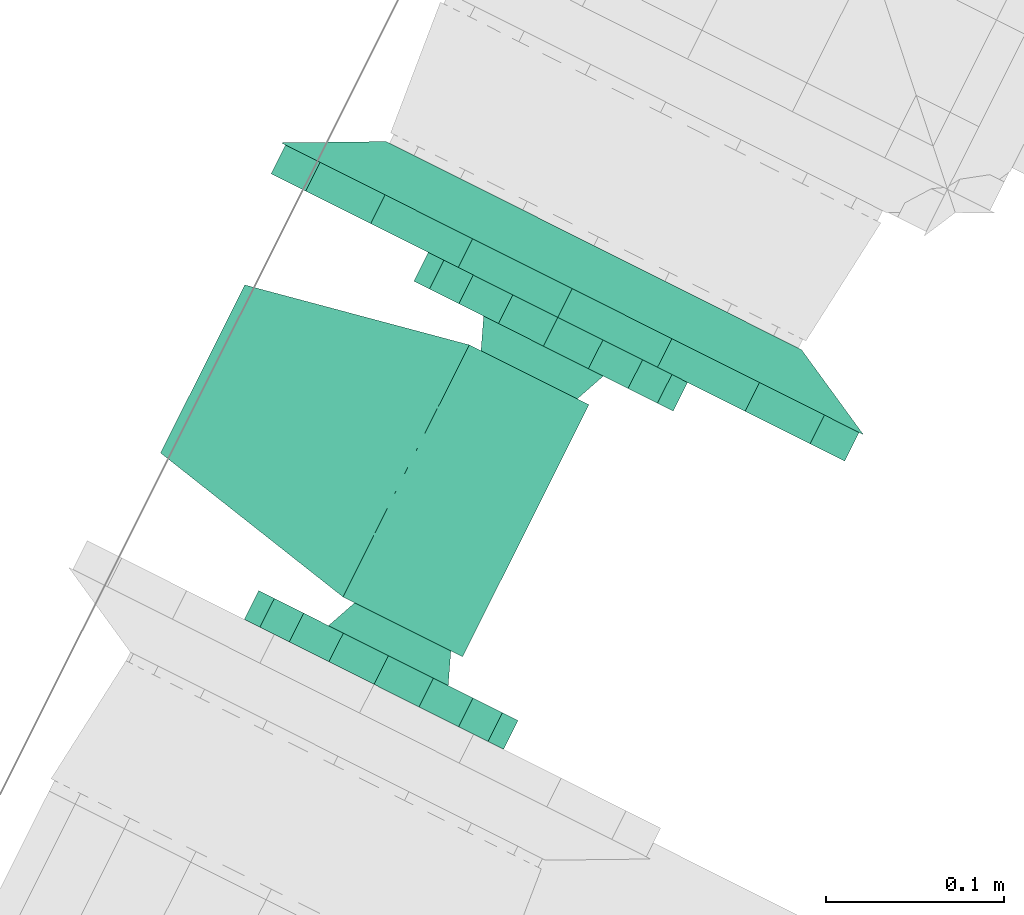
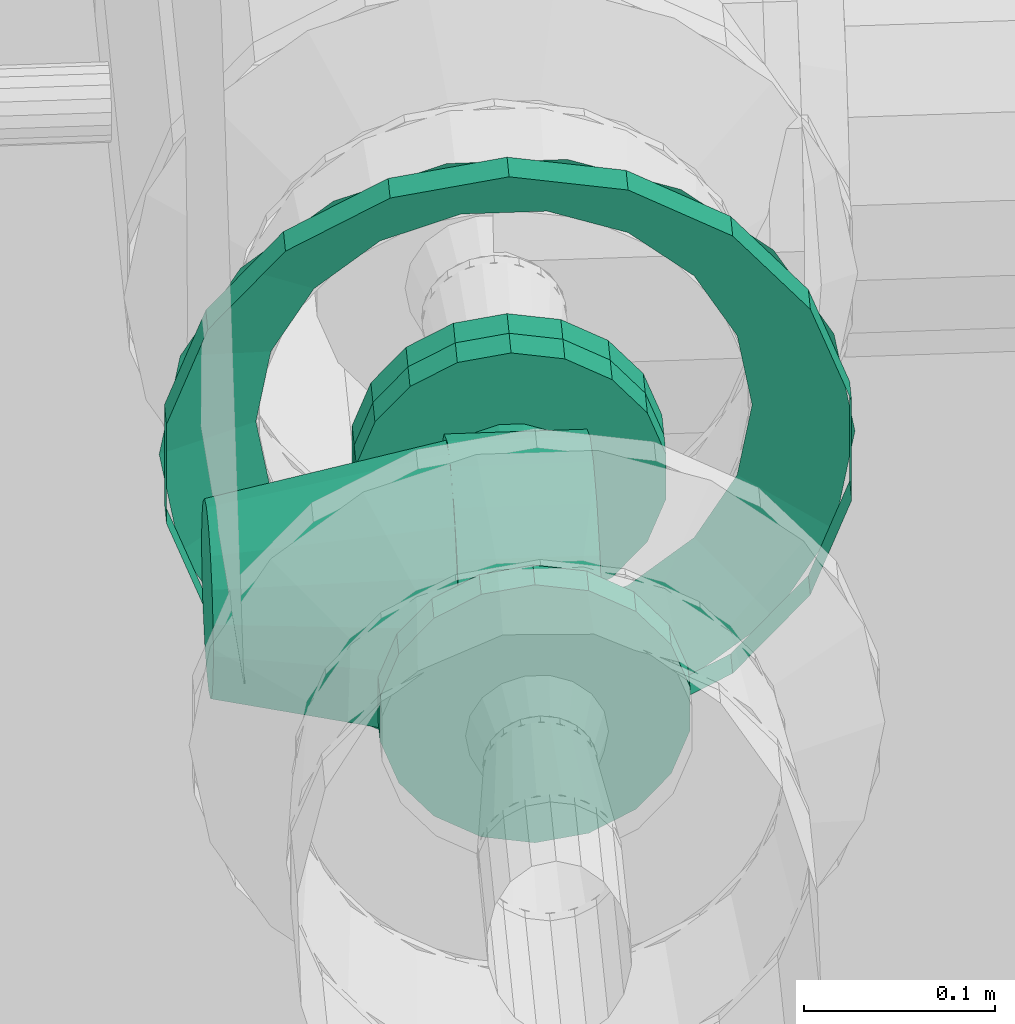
# One storey, part 143 of 206: 1 flow fitting, 1 flow moving device.
"""IFC2X3 building model written with IfcOpenShell, lengths in metres."""

import ifcopenshell
import ifcopenshell.guid

model = None  # the IFC model being written
_history = None  # IfcOwnerHistory: only IFC2X3 demands one
_inside = {}  # id of a spatial element -> (the spatial element, [elements in it])
_under = {}  # id of a project, library or spatial element -> (it, [spatial elements below it])
_declared = {}  # id of a project -> (the project, [libraries it declares])
_typed = {}  # id of a type object -> (the type object, [elements of that type])
_made_of = {}  # id of a material, layer set ... -> (it, [elements and type objects made of it])


def new_model(schema):
    """Start an empty IFC model of exactly this schema.

    Asked for "IFC4X3", IfcOpenShell would pick the latest addendum, in which some entities
    have other attributes; the version numbers below select the first issue.
    IFC2X3 requires an IfcOwnerHistory on every rooted entity: one is made here for all.
    """
    global model, _history
    if schema == "IFC4X3":
        model = ifcopenshell.file(schema_version=(4, 3, 0, 0))
    else:
        model = ifcopenshell.file(schema=schema)
    _inside.clear()
    _under.clear()
    _declared.clear()
    _typed.clear()
    _made_of.clear()
    _history = None
    if model.schema == "IFC2X3":
        org = make("IfcOrganization", Name="unknown")
        user = make(
            "IfcPersonAndOrganization",
            ThePerson=make("IfcPerson", FamilyName="unknown"),
            TheOrganization=org,
        )
        app = make(
            "IfcApplication",
            ApplicationDeveloper=org,
            Version="unknown",
            ApplicationFullName="unknown",
            ApplicationIdentifier="unknown",
        )
        _history = make(
            "IfcOwnerHistory",
            OwningUser=user,
            OwningApplication=app,
            ChangeAction="ADDED",
            CreationDate=0,
        )
    return model


def make(cls, **values):
    """One entity of the class cls with the attributes given. An attribute that is None is left unset."""
    return model.create_entity(
        cls, **{name: value for name, value in values.items() if value is not None}
    )


def rooted(cls, **values):
    """An entity with a GlobalId (a new one), such as an element, a storey or a relation."""
    return make(cls, GlobalId=ifcopenshell.guid.new(), OwnerHistory=_history, **values)


def si_unit(unit_type, name, prefix=None):
    """IfcSIUnit, for example si_unit("LENGTHUNIT", "METRE", prefix="MILLI")."""
    return make("IfcSIUnit", UnitType=unit_type, Prefix=prefix, Name=name)


def derived_unit(unit_type, elements):
    """IfcDerivedUnit: a product of units, each with its exponent."""
    return make(
        "IfcDerivedUnit",
        Elements=[
            make("IfcDerivedUnitElement", Unit=unit, Exponent=power)
            for unit, power in elements
        ],
        UnitType=unit_type,
    )


def assignment(units):
    """IfcUnitAssignment: the units of a project."""
    return None if units is None else make("IfcUnitAssignment", Units=units)


def point(xyz):
    """IfcCartesianPoint."""
    return None if xyz is None else make("IfcCartesianPoint", Coordinates=xyz)


def direction(xyz):
    """IfcDirection."""
    return None if xyz is None else make("IfcDirection", DirectionRatios=xyz)


def frame(location, z_axis=None, x_axis=None):
    """IfcAxis2Placement3D, a coordinate frame: its origin and axes. An axis left out is left unset."""
    return make(
        "IfcAxis2Placement3D",
        Location=point(location),
        Axis=direction(z_axis),
        RefDirection=direction(x_axis),
    )


def origin():
    """The frame at (0, 0, 0) with its axes left unset."""
    return frame((0.0, 0.0, 0.0))


def place(relative_to, where):
    """IfcLocalPlacement: puts the frame where relative to a parent placement (None: the world)."""
    return make(
        "IfcLocalPlacement", PlacementRelTo=relative_to, RelativePlacement=where
    )


def context(
    kind, dimensions, precision=None, world=None, true_north=None, identifier=None
):
    """IfcGeometricRepresentationContext, for example the 3D "Model" context."""
    return make(
        "IfcGeometricRepresentationContext",
        ContextIdentifier=identifier,
        ContextType=kind,
        CoordinateSpaceDimension=dimensions,
        Precision=precision,
        WorldCoordinateSystem=world,
        TrueNorth=true_north,
    )


def subcontext(parent, identifier, kind, view, scale=None):
    """IfcGeometricRepresentationSubContext, for example "Body" below "Model"."""
    return make(
        "IfcGeometricRepresentationSubContext",
        ContextIdentifier=identifier,
        ContextType=kind,
        ParentContext=parent,
        TargetScale=scale,
        TargetView=view,
    )


def project(units=None, contexts=None):
    """IfcProject with its units and contexts."""
    return rooted(
        "IfcProject",
        Name="project",
        RepresentationContexts=contexts,
        UnitsInContext=assignment(units),
    )


def spatial(cls, under=None, at=None, **own):
    """A site, building, storey or space (cls), placed at a placement, below another one or the project."""
    s = rooted(cls, ObjectPlacement=at, **own)
    if under is not None:
        _under.setdefault(under.id(), (under, []))[1].append(s)
    return s


def faces_of(points, faces, orient=None, outer=None):
    """IfcFace entities. A face is a list of loops; a loop is a list of indices into points, from 0.

    orient and outer hold one flag for each loop. By default every Orientation is true, the
    first loop of a face is its IfcFaceOuterBound and the others are IfcFaceBound.
    """
    made = []
    for i, loops in enumerate(faces):
        bounds = []
        for j, loop in enumerate(loops):
            is_outer = j == 0 if outer is None else outer[i][j]
            bounds.append(
                make(
                    "IfcFaceOuterBound" if is_outer else "IfcFaceBound",
                    Bound=make("IfcPolyLoop", Polygon=[points[k] for k in loop]),
                    Orientation=True if orient is None else orient[i][j],
                )
            )
        made.append(make("IfcFace", Bounds=bounds))
    return made


def face_set(faces, orient=None, outer=None):
    """The faces of one IfcConnectedFaceSet. surface_model builds it on its shared points."""
    return ("IfcConnectedFaceSet", faces, orient, outer)


def surface_model(cls, points, shells):
    """IfcFaceBasedSurfaceModel or IfcShellBasedSurfaceModel (cls): surfaces that need not close."""
    shared = [point(p) for p in points]
    made = [make(c, CfsFaces=faces_of(shared, fs, o, b)) for c, fs, o, b in shells]
    if cls == "IfcFaceBasedSurfaceModel":
        return make(cls, FbsmFaces=made)
    return make(cls, SbsmBoundary=made)


def shape(context_of_items, identifier, shape_type, items):
    """IfcShapeRepresentation: the items that make up one representation, for example the "Body"."""
    return make(
        "IfcShapeRepresentation",
        ContextOfItems=context_of_items,
        RepresentationIdentifier=identifier,
        RepresentationType=shape_type,
        Items=items,
    )


def source(mapping_origin, context_of_items, identifier, shape_type, items):
    """IfcRepresentationMap: a shape defined once, which mapped items show again and again."""
    return make(
        "IfcRepresentationMap",
        MappingOrigin=mapping_origin,
        MappedRepresentation=shape(context_of_items, identifier, shape_type, items),
    )


def transform(
    local_origin,
    x_axis=None,
    y_axis=None,
    z_axis=None,
    scale=None,
    scale2=None,
    scale3=None,
    uniform=True,
):
    """IfcCartesianTransformationOperator3D, or its non-uniform kind. x_axis, y_axis, z_axis: its Axis1, 2, 3."""
    if uniform:
        return make(
            "IfcCartesianTransformationOperator3D",
            Axis1=direction(x_axis),
            Axis2=direction(y_axis),
            LocalOrigin=point(local_origin),
            Scale=scale,
            Axis3=direction(z_axis),
        )
    return make(
        "IfcCartesianTransformationOperator3DnonUniform",
        Axis1=direction(x_axis),
        Axis2=direction(y_axis),
        LocalOrigin=point(local_origin),
        Scale=scale,
        Axis3=direction(z_axis),
        Scale2=scale2,
        Scale3=scale3,
    )


def mapped(mapping_source, mapping_target):
    """IfcMappedItem: shows the shape of a source again, moved by a transform."""
    return make(
        "IfcMappedItem", MappingSource=mapping_source, MappingTarget=mapping_target
    )


def material(Name=None, Category=None):
    """IfcMaterial."""
    return make("IfcMaterial", Name=Name, Category=Category)


def made_of(thing, what):
    """Note that an element or type object is made of a material, layer set ...; save() writes the relation."""
    if what is not None:
        _made_of.setdefault(what.id(), (what, []))[1].append(thing)
    return thing


def type_object(cls, material=None, **own):
    """A type object (cls), such as IfcWallType, which elements share."""
    return made_of(rooted(cls, **own), material)


def type_shapes(of_type, sources):
    """Give a type object the sources (RepresentationMaps) that its elements show as mapped items."""
    of_type.RepresentationMaps = sources


def element(
    cls,
    number,
    at=None,
    inside=None,
    cuts=None,
    type_object=None,
    material=None,
    context=None,
    identifier="Body",
    shape_type=None,
    held_by="IfcProductDefinitionShape",
    body=None,
    shapes=None,
    **own,
):
    """One element of the class cls, such as IfcWall. Its Tag is "e" and its number.

    at: its placement. inside: the storey or other place that contains it. cuts: it is an
    opening in that element (IfcRelVoidsElement). A single representation is given by context,
    identifier, shape_type and body (its items); several are given by shapes. held_by: the class
    of the entity that holds the representations. save() writes the other relations.
    """
    e = rooted(cls, Tag="e%d" % number, ObjectPlacement=at, **own)
    if body is not None:
        shapes = [shape(context, identifier, shape_type, body)]
    if shapes is not None:
        e.Representation = make(held_by, Representations=shapes)
    if inside is not None:
        _inside.setdefault(inside.id(), (inside, []))[1].append(e)
    if cuts is not None:
        rooted(
            "IfcRelVoidsElement", RelatingBuildingElement=cuts, RelatedOpeningElement=e
        )
    if type_object is not None:
        _typed.setdefault(type_object.id(), (type_object, []))[1].append(e)
    return made_of(e, material)


def aggregate(whole, parts):
    """IfcRelAggregates: a whole, such as a stair, and the parts it consists of."""
    return rooted("IfcRelAggregates", RelatingObject=whole, RelatedObjects=parts)


def save(model, path):
    """Write the relations noted so far, then the file.

    IfcRelAggregates (storeys below a building ...), IfcRelContainedInSpatialStructure (elements
    in a storey), IfcRelDefinesByType, IfcRelAssociatesMaterial and IfcRelDeclares: one each for
    every whole, place, type object, material and project.
    """
    for whole, parts in _under.values():
        aggregate(whole, parts)
    for where, things in _inside.values():
        rooted(
            "IfcRelContainedInSpatialStructure",
            RelatedElements=things,
            RelatingStructure=where,
        )
    for kind, things in _typed.values():
        rooted("IfcRelDefinesByType", RelatedObjects=things, RelatingType=kind)
    for what, things in _made_of.values():
        rooted("IfcRelAssociatesMaterial", RelatedObjects=things, RelatingMaterial=what)
    for by, libraries in _declared.values():
        rooted("IfcRelDeclares", RelatingContext=by, RelatedDefinitions=libraries)
    model.write(path)


model = new_model("IFC2X3")

# Units and contexts
model_context = context("Model", 3, precision=5.2338327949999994e-05, world=origin(), true_north=direction((0.0, 1.0)))
body_context = subcontext(model_context, "Body", "Model", "MODEL_VIEW")
ifc_project = project(units=[si_unit("LENGTHUNIT", "METRE"), si_unit("AREAUNIT", "SQUARE_METRE"), si_unit("VOLUMEUNIT", "CUBIC_METRE"), si_unit("MASSUNIT", "GRAM", prefix="KILO"), si_unit("PLANEANGLEUNIT", "RADIAN"), derived_unit("THERMALTRANSMITTANCEUNIT", [(si_unit("MASSUNIT", "GRAM", prefix="KILO"), 1), (si_unit("THERMODYNAMICTEMPERATUREUNIT", "KELVIN"), -1), (si_unit("TIMEUNIT", "SECOND"), -3)])], contexts=[model_context])

# Site, building, storey
site_placement = place(None, frame((0.0, 0.0, 0.0), z_axis=(0.0, 0.0, 1.0), x_axis=(0.8939966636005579, -0.4480736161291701, 0.0)))
site = spatial("IfcSite", under=ifc_project, at=site_placement, Name="Default", CompositionType="ELEMENT")
building_placement = place(site_placement, origin())
building = spatial("IfcBuilding", under=site, at=building_placement, CompositionType="ELEMENT")
storey_placement = place(building_placement, origin())
storey = spatial("IfcBuildingStorey", under=building, at=storey_placement, Name="Erdgeschoss", CompositionType="ELEMENT", Elevation=0.0)

# Flow moving device
ifc_material = material(Name="IfcSurfaceStyle #1741")
distribution_element_type_1 = type_object("IfcDistributionElementType", Name="Inline-Pumpe 321583:Inline-Pumpe 321583", material=ifc_material)
shared_shape_1 = source(origin(), body_context, "Body", "SurfaceModel", [
    surface_model("IfcFaceBasedSurfaceModel", [(29.960127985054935, 9.382419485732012, 2.2315), (29.98834464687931, 9.382419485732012, 2.2364753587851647), (29.98834464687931, 9.36441948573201, 2.2364753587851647), (29.960127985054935, 9.36441948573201, 2.2315), (30.013157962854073, 9.382419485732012, 2.250801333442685), (30.013157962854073, 9.36441948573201, 2.250801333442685), (30.031575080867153, 9.382419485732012, 2.2727500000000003), (30.031575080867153, 9.36441948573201, 2.2727500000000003), (30.041374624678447, 9.382419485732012, 2.2996740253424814), (30.041374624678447, 9.36441948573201, 2.2996740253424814), (30.041374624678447, 9.382419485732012, 2.328325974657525), (30.041374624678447, 9.36441948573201, 2.328325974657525), (30.03157508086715, 9.382419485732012, 2.355250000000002), (30.03157508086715, 9.36441948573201, 2.355250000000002), (30.01315796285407, 9.382419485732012, 2.377198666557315), (30.01315796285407, 9.36441948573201, 2.377198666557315), (29.988344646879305, 9.382419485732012, 2.3915246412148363), (29.988344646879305, 9.36441948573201, 2.3915246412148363), (29.960127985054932, 9.382419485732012, 2.3965000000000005), (29.960127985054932, 9.36441948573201, 2.3965000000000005), (29.931911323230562, 9.382419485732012, 2.391524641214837), (29.931911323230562, 9.36441948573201, 2.391524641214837), (29.907098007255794, 9.382419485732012, 2.377198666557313), (29.907098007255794, 9.36441948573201, 2.377198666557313), (29.888680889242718, 9.382419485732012, 2.355249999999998), (29.888680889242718, 9.36441948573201, 2.355249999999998), (29.87888134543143, 9.382419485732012, 2.328325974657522), (29.87888134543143, 9.36441948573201, 2.328325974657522), (29.87888134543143, 9.382419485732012, 2.2996740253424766), (29.87888134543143, 9.36441948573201, 2.2996740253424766), (29.88868088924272, 9.382419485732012, 2.27275), (29.88868088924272, 9.36441948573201, 2.27275), (29.907098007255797, 9.382419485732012, 2.250801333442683), (29.907098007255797, 9.36441948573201, 2.250801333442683), (29.93191132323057, 9.382419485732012, 2.2364753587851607), (29.93191132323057, 9.36441948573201, 2.2364753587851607), (29.960127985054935, 9.38241948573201, 2.314), (29.960127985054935, 9.36441948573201, 2.314), (29.99762798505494, 9.36441948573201, 2.314000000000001), (29.995366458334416, 9.36441948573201, 2.3268257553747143), (29.98845971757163, 9.346419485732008, 2.324311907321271), (29.990277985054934, 9.34641948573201, 2.314000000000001), (29.9888546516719, 9.36441948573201, 2.3381045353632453), (29.98322422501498, 9.346419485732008, 2.3333800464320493), (29.97887798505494, 9.36441948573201, 2.346475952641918), (29.975202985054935, 9.346419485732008, 2.3401106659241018), (29.96663979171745, 9.36441948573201, 2.3509302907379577), (29.965363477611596, 9.346419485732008, 2.3436919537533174), (29.953616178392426, 9.36441948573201, 2.350930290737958), (29.954892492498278, 9.346419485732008, 2.3436919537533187), (29.94137798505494, 9.36441948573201, 2.3464759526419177), (29.945052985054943, 9.346419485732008, 2.340110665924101), (29.931401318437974, 9.36441948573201, 2.338104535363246), (29.9370317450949, 9.346419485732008, 2.3333800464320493), (29.924889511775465, 9.36441948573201, 2.326825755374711), (29.931796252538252, 9.346419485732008, 2.3243119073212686), (29.922627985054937, 9.364419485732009, 2.3139999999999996), (29.929977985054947, 9.346419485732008, 2.3139999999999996), (29.92488951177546, 9.36441948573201, 2.3011742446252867), (29.931796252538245, 9.346419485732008, 2.303688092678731), (29.931401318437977, 9.364419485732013, 2.2898954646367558), (29.937031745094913, 9.346419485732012, 2.294619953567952), (29.94137798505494, 9.36441948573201, 2.2815240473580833), (29.945052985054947, 9.346419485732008, 2.2878893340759), (29.953616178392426, 9.36441948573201, 2.2770697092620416), (29.954892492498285, 9.346419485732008, 2.2843080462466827), (29.966639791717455, 9.36441948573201, 2.2770697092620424), (29.965363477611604, 9.346419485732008, 2.2843080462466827), (29.978877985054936, 9.36441948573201, 2.2815240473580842), (29.975202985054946, 9.346419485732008, 2.2878893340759), (29.988854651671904, 9.36441948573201, 2.289895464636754), (29.983224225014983, 9.346419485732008, 2.2946199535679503), (29.995366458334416, 9.36441948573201, 2.3011742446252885), (29.98845971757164, 9.346419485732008, 2.303688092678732), (29.990277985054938, 9.18841948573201, 2.314000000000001), (29.988459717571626, 9.18841948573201, 2.3243119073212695), (29.995366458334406, 9.170419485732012, 2.326825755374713), (29.99762798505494, 9.170419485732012, 2.314000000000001), (29.983224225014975, 9.18841948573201, 2.3333800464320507), (29.9888546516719, 9.170419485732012, 2.3381045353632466), (29.975202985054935, 9.18841948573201, 2.340110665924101), (29.97887798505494, 9.170419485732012, 2.3464759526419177), (29.965363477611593, 9.18841948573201, 2.343691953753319), (29.966639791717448, 9.170419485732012, 2.350930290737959), (29.954892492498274, 9.18841948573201, 2.3436919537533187), (29.953616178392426, 9.170419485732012, 2.350930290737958), (29.94505298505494, 9.18841948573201, 2.3401106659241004), (29.94137798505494, 9.170419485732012, 2.3464759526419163), (29.9370317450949, 9.188419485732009, 2.333380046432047), (29.931401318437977, 9.17041948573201, 2.3381045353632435), (29.931796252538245, 9.188419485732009, 2.324311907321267), (29.92488951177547, 9.170419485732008, 2.3268257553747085), (29.92997798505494, 9.18841948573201, 2.3139999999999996), (29.922627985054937, 9.170419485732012, 2.313999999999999), (29.931796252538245, 9.18841948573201, 2.303688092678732), (29.92488951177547, 9.170419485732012, 2.3011742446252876), (29.93703174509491, 9.188419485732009, 2.294619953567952), (29.93140131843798, 9.17041948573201, 2.289895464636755), (29.94505298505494, 9.18841948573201, 2.287889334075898), (29.94137798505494, 9.170419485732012, 2.281524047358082), (29.954892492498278, 9.18841948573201, 2.2843080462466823), (29.95361617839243, 9.170419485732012, 2.2770697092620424), (29.965363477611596, 9.18841948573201, 2.2843080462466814), (29.96663979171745, 9.170419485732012, 2.2770697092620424), (29.975202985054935, 9.188419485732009, 2.287889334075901), (29.97887798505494, 9.17041948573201, 2.2815240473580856), (29.983224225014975, 9.18841948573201, 2.2946199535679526), (29.9888546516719, 9.170419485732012, 2.2898954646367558), (29.98845971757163, 9.18841948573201, 2.303688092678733), (29.99536645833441, 9.170419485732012, 2.3011742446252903), (29.960127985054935, 9.170419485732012, 2.2315), (29.98834464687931, 9.170419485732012, 2.2364753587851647), (29.98834464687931, 9.152419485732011, 2.2364753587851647), (29.960127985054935, 9.152419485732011, 2.2315), (30.013157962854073, 9.170419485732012, 2.250801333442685), (30.013157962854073, 9.152419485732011, 2.250801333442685), (30.031575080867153, 9.170419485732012, 2.2727500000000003), (30.031575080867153, 9.152419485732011, 2.2727500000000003), (30.041374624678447, 9.170419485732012, 2.2996740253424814), (30.041374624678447, 9.152419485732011, 2.2996740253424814), (30.041374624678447, 9.170419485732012, 2.328325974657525), (30.041374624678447, 9.152419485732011, 2.328325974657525), (30.03157508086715, 9.170419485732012, 2.355250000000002), (30.03157508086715, 9.152419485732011, 2.355250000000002), (30.01315796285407, 9.170419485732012, 2.377198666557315), (30.01315796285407, 9.152419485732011, 2.377198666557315), (29.988344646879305, 9.170419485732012, 2.3915246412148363), (29.988344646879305, 9.152419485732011, 2.3915246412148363), (29.960127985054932, 9.170419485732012, 2.3965000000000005), (29.960127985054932, 9.152419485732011, 2.3965000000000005), (29.931911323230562, 9.170419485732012, 2.391524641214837), (29.931911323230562, 9.152419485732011, 2.391524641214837), (29.907098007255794, 9.170419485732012, 2.377198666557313), (29.907098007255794, 9.152419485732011, 2.377198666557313), (29.888680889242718, 9.170419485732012, 2.355249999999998), (29.888680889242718, 9.152419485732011, 2.355249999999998), (29.87888134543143, 9.170419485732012, 2.328325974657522), (29.87888134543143, 9.152419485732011, 2.328325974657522), (29.87888134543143, 9.170419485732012, 2.2996740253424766), (29.87888134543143, 9.152419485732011, 2.2996740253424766), (29.88868088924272, 9.170419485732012, 2.27275), (29.88868088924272, 9.152419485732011, 2.27275), (29.907098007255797, 9.170419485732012, 2.250801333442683), (29.907098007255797, 9.152419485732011, 2.250801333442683), (29.93191132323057, 9.170419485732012, 2.2364753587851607), (29.93191132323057, 9.152419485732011, 2.2364753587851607), (29.960127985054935, 9.170419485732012, 2.314), (29.960127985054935, 9.15241948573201, 2.314), (29.922627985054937, 9.346419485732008, 2.276499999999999), (29.922627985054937, 9.346419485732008, 2.351499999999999), (29.997627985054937, 9.346419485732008, 2.3515000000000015), (29.997627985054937, 9.346419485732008, 2.276500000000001), (29.997627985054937, 9.18841948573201, 2.351500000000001), (29.997627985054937, 9.209744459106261, 2.3737293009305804), (29.922627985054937, 9.209744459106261, 2.373729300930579), (29.922627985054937, 9.18841948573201, 2.3514999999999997), (29.997627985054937, 9.237014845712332, 2.388054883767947), (29.922627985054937, 9.237014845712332, 2.3880548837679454), (29.997627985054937, 9.267419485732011, 2.3930000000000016), (29.922627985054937, 9.267419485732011, 2.3929999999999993), (29.997627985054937, 9.29782412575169, 2.3880548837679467), (29.922627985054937, 9.29782412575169, 2.3880548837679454), (29.997627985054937, 9.325094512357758, 2.3737293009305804), (29.922627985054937, 9.325094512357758, 2.373729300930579), (29.922627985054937, 9.18841948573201, 2.276499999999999), (29.997627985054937, 9.18841948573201, 2.276500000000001), (29.997627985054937, 9.325094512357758, 2.254270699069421), (29.922627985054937, 9.325094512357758, 2.254270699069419), (29.997627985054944, 9.29782412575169, 2.2399451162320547), (29.922627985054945, 9.29782412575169, 2.239945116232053), (29.99762798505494, 9.267419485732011, 2.235000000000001), (29.92262798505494, 9.267419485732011, 2.234999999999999), (29.99762798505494, 9.237014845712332, 2.239945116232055), (29.922627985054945, 9.237014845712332, 2.239945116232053), (29.997627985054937, 9.209744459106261, 2.254270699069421), (29.922627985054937, 9.209744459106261, 2.254270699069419), (29.922627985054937, 9.18841948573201, 2.3139999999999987), (29.92262798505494, 9.193183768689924, 2.341019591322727), (29.79512798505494, 9.217929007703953, 2.3320130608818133), (29.79512798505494, 9.214752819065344, 2.3139999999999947), (29.92262798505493, 9.206901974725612, 2.364780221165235), (29.795127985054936, 9.227074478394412, 2.347853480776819), (29.92262798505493, 9.22791948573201, 2.3824160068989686), (29.795127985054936, 9.24108615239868, 2.3596106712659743), (29.92262798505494, 9.253701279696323, 2.3917998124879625), (29.79512798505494, 9.25827401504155, 2.3658665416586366), (29.922627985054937, 9.281137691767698, 2.391799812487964), (29.79512798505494, 9.27656495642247, 2.3658665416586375), (29.922627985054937, 9.306919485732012, 2.382416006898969), (29.795127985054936, 9.293752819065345, 2.359610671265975), (29.92262798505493, 9.32793699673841, 2.364780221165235), (29.795127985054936, 9.30776449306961, 2.3478534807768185), (29.92262798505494, 9.341655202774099, 2.341019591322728), (29.79512798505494, 9.316909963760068, 2.3320130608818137), (29.92262798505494, 9.346419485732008, 2.313999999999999), (29.79512798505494, 9.320086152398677, 2.3139999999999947), (29.92262798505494, 9.341655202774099, 2.2869804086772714), (29.79512798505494, 9.31690996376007, 2.2959869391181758), (29.922627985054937, 9.32793699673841, 2.2632197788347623), (29.79512798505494, 9.30776449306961, 2.2801465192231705), (29.92262798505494, 9.306919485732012, 2.245583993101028), (29.79512798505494, 9.293752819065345, 2.268389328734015), (29.922627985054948, 9.281137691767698, 2.236200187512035), (29.795127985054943, 9.27656495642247, 2.262133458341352), (29.922627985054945, 9.253701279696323, 2.236200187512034), (29.795127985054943, 9.25827401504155, 2.262133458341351), (29.922627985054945, 9.22791948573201, 2.245583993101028), (29.79512798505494, 9.24108615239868, 2.268389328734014), (29.922627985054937, 9.206901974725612, 2.263219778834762), (29.79512798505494, 9.227074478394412, 2.2801465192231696), (29.92262798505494, 9.193183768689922, 2.2869804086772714), (29.79512798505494, 9.217929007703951, 2.295986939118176), (29.79512798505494, 9.267419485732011, 2.3139999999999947)], [face_set([[[0, 1, 2, 3]], [[1, 4, 5, 2]], [[4, 6, 7, 5]], [[6, 8, 9, 7]], [[8, 10, 11, 9]], [[10, 12, 13, 11]], [[12, 14, 15, 13]], [[14, 16, 17, 15]], [[16, 18, 19, 17]], [[18, 20, 21, 19]], [[20, 22, 23, 21]], [[22, 24, 25, 23]], [[24, 26, 27, 25]], [[26, 28, 29, 27]], [[28, 30, 31, 29]], [[30, 32, 33, 31]], [[32, 34, 35, 33]], [[34, 0, 3, 35]], [[36, 1, 0]], [[36, 4, 1]], [[36, 6, 4]], [[36, 8, 6]], [[36, 10, 8]], [[36, 12, 10]], [[36, 14, 12]], [[36, 16, 14]], [[36, 18, 16]], [[36, 20, 18]], [[36, 22, 20]], [[36, 24, 22]], [[36, 26, 24]], [[36, 28, 26]], [[36, 30, 28]], [[36, 32, 30]], [[36, 34, 32]], [[36, 0, 34]], [[37, 35, 3]], [[37, 33, 35]], [[37, 31, 33]], [[37, 29, 31]], [[37, 27, 29]], [[37, 25, 27]], [[37, 23, 25]], [[37, 21, 23]], [[37, 19, 21]], [[37, 17, 19]], [[37, 15, 17]], [[37, 13, 15]], [[37, 11, 13]], [[37, 9, 11]], [[37, 7, 9]], [[37, 5, 7]], [[37, 2, 5]], [[37, 3, 2]], [[38, 39, 40, 41]], [[39, 42, 43, 40]], [[42, 44, 45, 43]], [[44, 46, 47, 45]], [[46, 48, 49, 47]], [[48, 50, 51, 49]], [[50, 52, 53, 51]], [[52, 54, 55, 53]], [[54, 56, 57, 55]], [[56, 58, 59, 57]], [[58, 60, 61, 59]], [[60, 62, 63, 61]], [[62, 64, 65, 63]], [[64, 66, 67, 65]], [[66, 68, 69, 67]], [[68, 70, 71, 69]], [[70, 72, 73, 71]], [[72, 38, 41, 73]], [[74, 75, 76, 77]], [[75, 78, 79, 76]], [[78, 80, 81, 79]], [[80, 82, 83, 81]], [[82, 84, 85, 83]], [[84, 86, 87, 85]], [[86, 88, 89, 87]], [[88, 90, 91, 89]], [[90, 92, 93, 91]], [[92, 94, 95, 93]], [[94, 96, 97, 95]], [[96, 98, 99, 97]], [[98, 100, 101, 99]], [[100, 102, 103, 101]], [[102, 104, 105, 103]], [[104, 106, 107, 105]], [[106, 108, 109, 107]], [[108, 74, 77, 109]], [[110, 111, 112, 113]], [[111, 114, 115, 112]], [[114, 116, 117, 115]], [[116, 118, 119, 117]], [[118, 120, 121, 119]], [[120, 122, 123, 121]], [[122, 124, 125, 123]], [[124, 126, 127, 125]], [[126, 128, 129, 127]], [[128, 130, 131, 129]], [[130, 132, 133, 131]], [[132, 134, 135, 133]], [[134, 136, 137, 135]], [[136, 138, 139, 137]], [[138, 140, 141, 139]], [[140, 142, 143, 141]], [[142, 144, 145, 143]], [[144, 110, 113, 145]], [[146, 111, 110]], [[146, 114, 111]], [[146, 116, 114]], [[146, 118, 116]], [[146, 120, 118]], [[146, 122, 120]], [[146, 124, 122]], [[146, 126, 124]], [[146, 128, 126]], [[146, 130, 128]], [[146, 132, 130]], [[146, 134, 132]], [[146, 136, 134]], [[146, 138, 136]], [[146, 140, 138]], [[146, 142, 140]], [[146, 144, 142]], [[146, 110, 144]], [[147, 145, 113]], [[147, 143, 145]], [[147, 141, 143]], [[147, 139, 141]], [[147, 137, 139]], [[147, 135, 137]], [[147, 133, 135]], [[147, 131, 133]], [[147, 129, 131]], [[147, 127, 129]], [[147, 125, 127]], [[147, 123, 125]], [[147, 121, 123]], [[147, 119, 121]], [[147, 117, 119]], [[147, 115, 117]], [[147, 112, 115]], [[147, 113, 112]], [[148, 149, 150, 151]], [[152, 153, 154, 155]], [[153, 156, 157, 154]], [[156, 158, 159, 157]], [[158, 160, 161, 159]], [[160, 162, 163, 161]], [[162, 150, 149, 163]], [[155, 164, 165, 152]], [[151, 166, 167, 148]], [[166, 168, 169, 167]], [[168, 170, 171, 169]], [[170, 172, 173, 171]], [[172, 174, 175, 173]], [[174, 165, 164, 175]], [[151, 150, 162]], [[151, 162, 160]], [[151, 160, 158]], [[151, 158, 156]], [[151, 156, 153]], [[151, 153, 152]], [[151, 152, 165]], [[151, 165, 174]], [[151, 174, 172]], [[151, 172, 170]], [[151, 170, 168]], [[151, 168, 166]], [[163, 149, 148]], [[161, 163, 148]], [[159, 161, 148]], [[157, 159, 148]], [[154, 157, 148]], [[155, 154, 148]], [[164, 155, 148]], [[175, 164, 148]], [[173, 175, 148]], [[171, 173, 148]], [[169, 171, 148]], [[167, 169, 148]], [[176, 177, 178, 179]], [[177, 180, 181, 178]], [[180, 182, 183, 181]], [[182, 184, 185, 183]], [[184, 186, 187, 185]], [[186, 188, 189, 187]], [[188, 190, 191, 189]], [[190, 192, 193, 191]], [[192, 194, 195, 193]], [[194, 196, 197, 195]], [[196, 198, 199, 197]], [[198, 200, 201, 199]], [[200, 202, 203, 201]], [[202, 204, 205, 203]], [[204, 206, 207, 205]], [[206, 208, 209, 207]], [[208, 210, 211, 209]], [[210, 176, 179, 211]], [[212, 211, 179]], [[212, 209, 211]], [[212, 207, 209]], [[212, 205, 207]], [[212, 203, 205]], [[212, 201, 203]], [[212, 199, 201]], [[212, 197, 199]], [[212, 195, 197]], [[212, 193, 195]], [[212, 191, 193]], [[212, 189, 191]], [[212, 187, 189]], [[212, 185, 187]], [[212, 183, 185]], [[212, 181, 183]], [[212, 178, 181]], [[212, 179, 178]]])]),
])
type_shapes(distribution_element_type_1, [shared_shape_1])
flow_moving_device_placement = place(storey_placement, origin())
element("IfcFlowMovingDevice", 1, at=flow_moving_device_placement, inside=storey, type_object=distribution_element_type_1, material=ifc_material, Name="Inline-Pumpe", ObjectType="Inline-Pumpe", context=body_context, shape_type="MappedRepresentation", body=[
    mapped(shared_shape_1, transform((0.0, 0.0, 0.0), scale=1.0)),
])

# Flow fitting
distribution_element_type_2 = type_object("IfcDistributionElementType", Name="Flansch 325457:Flansch 325457", material=ifc_material)
shared_shape_2 = source(origin(), body_context, "Body", "SurfaceModel", [
    surface_model("IfcFaceBasedSurfaceModel", [(29.960127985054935, 9.382419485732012, 2.2315), (29.931911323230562, 9.382419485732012, 2.2364753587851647), (29.931911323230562, 9.400419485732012, 2.2364753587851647), (29.960127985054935, 9.400419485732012, 2.2315), (29.907098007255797, 9.382419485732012, 2.2508013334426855), (29.907098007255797, 9.400419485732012, 2.2508013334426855), (29.888680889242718, 9.382419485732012, 2.2727500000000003), (29.888680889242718, 9.400419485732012, 2.2727500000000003), (29.87888134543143, 9.382419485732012, 2.2996740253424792), (29.87888134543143, 9.400419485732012, 2.2996740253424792), (29.87888134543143, 9.382419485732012, 2.328325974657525), (29.87888134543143, 9.400419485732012, 2.328325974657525), (29.88868088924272, 9.382419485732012, 2.3552500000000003), (29.88868088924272, 9.400419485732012, 2.3552500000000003), (29.907098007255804, 9.382419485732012, 2.377198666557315), (29.907098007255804, 9.400419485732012, 2.377198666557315), (29.931911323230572, 9.382419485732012, 2.391524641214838), (29.931911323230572, 9.400419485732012, 2.391524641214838), (29.960127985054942, 9.382419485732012, 2.3965), (29.960127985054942, 9.400419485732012, 2.3965), (29.98834464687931, 9.382419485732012, 2.391524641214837), (29.98834464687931, 9.400419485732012, 2.391524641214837), (30.013157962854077, 9.382419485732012, 2.377198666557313), (30.013157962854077, 9.400419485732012, 2.377198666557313), (30.031575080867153, 9.382419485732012, 2.355249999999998), (30.031575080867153, 9.400419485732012, 2.355249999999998), (30.041374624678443, 9.382419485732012, 2.328325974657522), (30.041374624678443, 9.400419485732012, 2.328325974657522), (30.041374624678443, 9.382419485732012, 2.299674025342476), (30.041374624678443, 9.400419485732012, 2.299674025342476), (30.031575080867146, 9.382419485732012, 2.2727499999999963), (30.031575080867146, 9.400419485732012, 2.2727499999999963), (30.013157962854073, 9.382419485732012, 2.2508013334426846), (30.013157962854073, 9.400419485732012, 2.2508013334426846), (29.988344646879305, 9.382419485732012, 2.2364753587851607), (29.988344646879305, 9.400419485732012, 2.2364753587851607), (29.960127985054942, 9.40041948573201, 2.314), (29.997627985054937, 9.400419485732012, 2.3139999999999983), (29.995366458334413, 9.400419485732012, 2.301174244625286), (29.988459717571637, 9.427419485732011, 2.3036880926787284), (29.990277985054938, 9.427419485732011, 2.3139999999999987), (29.9888546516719, 9.400419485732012, 2.2898954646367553), (29.98322422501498, 9.427419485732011, 2.294619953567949), (29.978877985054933, 9.400419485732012, 2.2815240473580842), (29.975202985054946, 9.427419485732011, 2.287889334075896), (29.966639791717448, 9.400419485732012, 2.2770697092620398), (29.965363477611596, 9.427419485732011, 2.2843080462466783), (29.953616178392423, 9.400419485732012, 2.2770697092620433), (29.954892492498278, 9.427419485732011, 2.28430804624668), (29.941377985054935, 9.400419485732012, 2.2815240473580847), (29.945052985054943, 9.427419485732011, 2.287889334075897), (29.931401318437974, 9.400419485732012, 2.2898954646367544), (29.937031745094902, 9.427419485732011, 2.2946199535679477), (29.924889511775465, 9.400419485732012, 2.30117424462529), (29.931796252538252, 9.427419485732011, 2.303688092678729), (29.922627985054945, 9.40041948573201, 2.314000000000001), (29.929977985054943, 9.427419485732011, 2.3139999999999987), (29.924889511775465, 9.400419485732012, 2.3268257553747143), (29.931796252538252, 9.427419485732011, 2.3243119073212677), (29.931401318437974, 9.400419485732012, 2.3381045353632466), (29.937031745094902, 9.427419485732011, 2.333380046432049), (29.94137798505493, 9.400419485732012, 2.3464759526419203), (29.945052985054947, 9.427419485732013, 2.3401106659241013), (29.953616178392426, 9.400419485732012, 2.350930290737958), (29.954892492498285, 9.427419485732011, 2.343691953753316), (29.96663979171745, 9.400419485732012, 2.3509302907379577), (29.965363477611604, 9.427419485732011, 2.343691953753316), (29.978877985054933, 9.400419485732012, 2.3464759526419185), (29.975202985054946, 9.427419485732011, 2.340110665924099), (29.9888546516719, 9.400419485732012, 2.338104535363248), (29.983224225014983, 9.427419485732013, 2.33338004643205), (29.995366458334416, 9.400419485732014, 2.3268257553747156), (29.988459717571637, 9.427419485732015, 2.324311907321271), (29.960127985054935, 9.382419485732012, 2.1314999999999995), (29.89770930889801, 9.382419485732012, 2.14250609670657), (29.89770930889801, 9.40041948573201, 2.14250609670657), (29.960127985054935, 9.400419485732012, 2.1314999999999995), (29.84281924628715, 9.382419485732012, 2.1741968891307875), (29.84281924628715, 9.40041948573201, 2.1741968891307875), (29.80207834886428, 9.382419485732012, 2.222750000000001), (29.80207834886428, 9.40041948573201, 2.222750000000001), (29.780400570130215, 9.382419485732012, 2.2823092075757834), (29.780400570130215, 9.40041948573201, 2.2823092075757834), (29.780400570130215, 9.382419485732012, 2.3456907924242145), (29.780400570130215, 9.40041948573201, 2.3456907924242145), (29.80207834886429, 9.382419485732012, 2.40525), (29.80207834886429, 9.40041948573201, 2.40525), (29.84281924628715, 9.382419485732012, 2.4538031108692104), (29.84281924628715, 9.40041948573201, 2.4538031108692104), (29.89770930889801, 9.382419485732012, 2.485493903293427), (29.89770930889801, 9.40041948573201, 2.485493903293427), (29.960127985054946, 9.382419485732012, 2.4964999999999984), (29.960127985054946, 9.40041948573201, 2.4964999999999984), (30.022546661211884, 9.382419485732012, 2.485493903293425), (30.022546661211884, 9.40041948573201, 2.485493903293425), (30.07743672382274, 9.382419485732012, 2.4538031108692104), (30.07743672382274, 9.40041948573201, 2.4538031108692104), (30.118177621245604, 9.382419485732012, 2.4052499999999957), (30.118177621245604, 9.40041948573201, 2.4052499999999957), (30.13985539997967, 9.382419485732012, 2.345690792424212), (30.13985539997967, 9.40041948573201, 2.345690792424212), (30.139855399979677, 9.382419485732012, 2.282309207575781), (30.139855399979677, 9.40041948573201, 2.282309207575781), (30.118177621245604, 9.382419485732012, 2.2227499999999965), (30.118177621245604, 9.40041948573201, 2.2227499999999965), (30.077436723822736, 9.382419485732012, 2.1741968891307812), (30.077436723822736, 9.40041948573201, 2.1741968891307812), (30.022546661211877, 9.382419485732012, 2.142506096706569), (30.022546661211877, 9.40041948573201, 2.142506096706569), (30.142627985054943, 9.40041948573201, 2.313999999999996), (30.131621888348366, 9.40041948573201, 2.2515813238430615), (30.082428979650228, 9.427419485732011, 2.269486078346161), (30.090277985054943, 9.427419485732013, 2.3139999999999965), (30.09993109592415, 9.40041948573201, 2.1966912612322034), (30.05982866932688, 9.427419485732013, 2.230341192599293), (30.051377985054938, 9.40041948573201, 2.155950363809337), (30.025202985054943, 9.427419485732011, 2.201286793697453), (29.99181877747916, 9.40041948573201, 2.1342725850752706), (29.982728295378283, 9.427419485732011, 2.1858272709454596), (29.928437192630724, 9.40041948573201, 2.13427258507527), (29.937527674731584, 9.427419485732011, 2.18582727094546), (29.86887798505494, 9.400419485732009, 2.155950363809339), (29.89505298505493, 9.427419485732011, 2.2012867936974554), (29.82032487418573, 9.40041948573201, 2.1966912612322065), (29.860427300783, 9.427419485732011, 2.230341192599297), (29.78863408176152, 9.40041948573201, 2.2515813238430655), (29.83782699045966, 9.427419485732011, 2.269486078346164), (29.77762798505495, 9.40041948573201, 2.3140000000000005), (29.82997798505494, 9.427419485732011, 2.314), (29.788634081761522, 9.40041948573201, 2.3764186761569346), (29.837826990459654, 9.427419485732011, 2.358513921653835), (29.820324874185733, 9.40041948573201, 2.431308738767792), (29.86042730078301, 9.427419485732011, 2.397658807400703), (29.868877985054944, 9.40041948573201, 2.4720496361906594), (29.89505298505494, 9.427419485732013, 2.4267132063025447), (29.92843719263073, 9.40041948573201, 2.493727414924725), (29.937527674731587, 9.427419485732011, 2.442172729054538), (29.99181877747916, 9.40041948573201, 2.493727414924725), (29.982728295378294, 9.427419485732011, 2.442172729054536), (30.051377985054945, 9.40041948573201, 2.472049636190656), (30.025202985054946, 9.427419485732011, 2.4267132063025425), (30.099931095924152, 9.400419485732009, 2.4313087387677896), (30.059828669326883, 9.427419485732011, 2.397658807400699), (30.131621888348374, 9.40041948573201, 2.37641867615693), (30.082428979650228, 9.427419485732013, 2.358513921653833)], [face_set([[[0, 1, 2, 3]], [[1, 4, 5, 2]], [[4, 6, 7, 5]], [[6, 8, 9, 7]], [[8, 10, 11, 9]], [[10, 12, 13, 11]], [[12, 14, 15, 13]], [[14, 16, 17, 15]], [[16, 18, 19, 17]], [[18, 20, 21, 19]], [[20, 22, 23, 21]], [[22, 24, 25, 23]], [[24, 26, 27, 25]], [[26, 28, 29, 27]], [[28, 30, 31, 29]], [[30, 32, 33, 31]], [[32, 34, 35, 33]], [[34, 0, 3, 35]], [[36, 35, 3]], [[36, 33, 35]], [[36, 31, 33]], [[36, 29, 31]], [[36, 27, 29]], [[36, 25, 27]], [[36, 23, 25]], [[36, 21, 23]], [[36, 19, 21]], [[36, 17, 19]], [[36, 15, 17]], [[36, 13, 15]], [[36, 11, 13]], [[36, 9, 11]], [[36, 7, 9]], [[36, 5, 7]], [[36, 2, 5]], [[36, 3, 2]], [[37, 38, 39, 40]], [[38, 41, 42, 39]], [[41, 43, 44, 42]], [[43, 45, 46, 44]], [[45, 47, 48, 46]], [[47, 49, 50, 48]], [[49, 51, 52, 50]], [[51, 53, 54, 52]], [[53, 55, 56, 54]], [[55, 57, 58, 56]], [[57, 59, 60, 58]], [[59, 61, 62, 60]], [[61, 63, 64, 62]], [[63, 65, 66, 64]], [[65, 67, 68, 66]], [[67, 69, 70, 68]], [[69, 71, 72, 70]], [[71, 37, 40, 72]], [[73, 74, 75, 76]], [[74, 77, 78, 75]], [[77, 79, 80, 78]], [[79, 81, 82, 80]], [[81, 83, 84, 82]], [[83, 85, 86, 84]], [[85, 87, 88, 86]], [[87, 89, 90, 88]], [[89, 91, 92, 90]], [[91, 93, 94, 92]], [[93, 95, 96, 94]], [[95, 97, 98, 96]], [[97, 99, 100, 98]], [[99, 101, 102, 100]], [[101, 103, 104, 102]], [[103, 105, 106, 104]], [[105, 107, 108, 106]], [[107, 73, 76, 108]], [[109, 110, 111, 112]], [[110, 113, 114, 111]], [[113, 115, 116, 114]], [[115, 117, 118, 116]], [[117, 119, 120, 118]], [[119, 121, 122, 120]], [[121, 123, 124, 122]], [[123, 125, 126, 124]], [[125, 127, 128, 126]], [[127, 129, 130, 128]], [[129, 131, 132, 130]], [[131, 133, 134, 132]], [[133, 135, 136, 134]], [[135, 137, 138, 136]], [[137, 139, 140, 138]], [[139, 141, 142, 140]], [[141, 143, 144, 142]], [[143, 109, 112, 144]]])]),
])
type_shapes(distribution_element_type_2, [shared_shape_2])
flow_fitting_placement = place(storey_placement, origin())
element("IfcFlowFitting", 2, at=flow_fitting_placement, inside=storey, type_object=distribution_element_type_2, material=ifc_material, Name="Flansch", ObjectType="Flansch", context=body_context, shape_type="MappedRepresentation", body=[
    mapped(shared_shape_2, transform((0.0, 0.0, 0.0), scale=1.0)),
])

save(model, "model.ifc")
